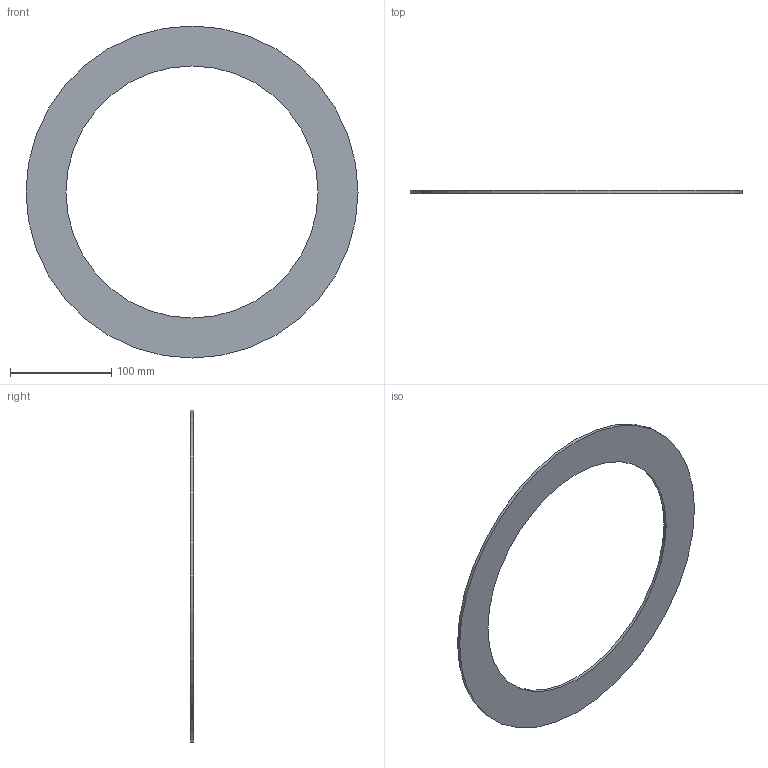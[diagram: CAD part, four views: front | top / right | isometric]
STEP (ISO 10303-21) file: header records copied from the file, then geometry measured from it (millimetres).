
FILE_DESCRIPTION(/* description */ ('Unknown'),/* implementation_level */ '2;1');
FILE_NAME(/* name */ 'GUA.280B',/* time_stamp */ '2021-04-01T12:35:37+02:00',/* author */ ('Unknown'),/* organization */ ('Unknown'),/* preprocessor_version */ 'ST-DEVELOPER v16.7',/* originating_system */ 'Solid Edge',/* authorisation */ 'Unknown');
FILE_SCHEMA (('AUTOMOTIVE_DESIGN {1 0 10303 214 3 1 1}'));
Length unit declared in the file: millimetre
Products named in the file (1): GUA.280B
Bounding box: 328 x 3 x 328 mm (x, y, z)
Volume: 107402.4 mm3; surface area: 77039.7 mm2
Topology: 1 solids, 1 shells, 4 faces, 6 edges, 4 vertices
Faces by surface type: cylinder 2, plane 2
Full cylindrical faces by diameter (mm): 249 x1, 328 x1
Entity records: 118 total; most frequent: DIRECTION 18, CARTESIAN_POINT 13, AXIS2_PLACEMENT_3D 9, ORIENTED_EDGE 8, EDGE_LOOP 8, FACE_BOUND 8, EDGE_CURVE 4, VERTEX_POINT 4
